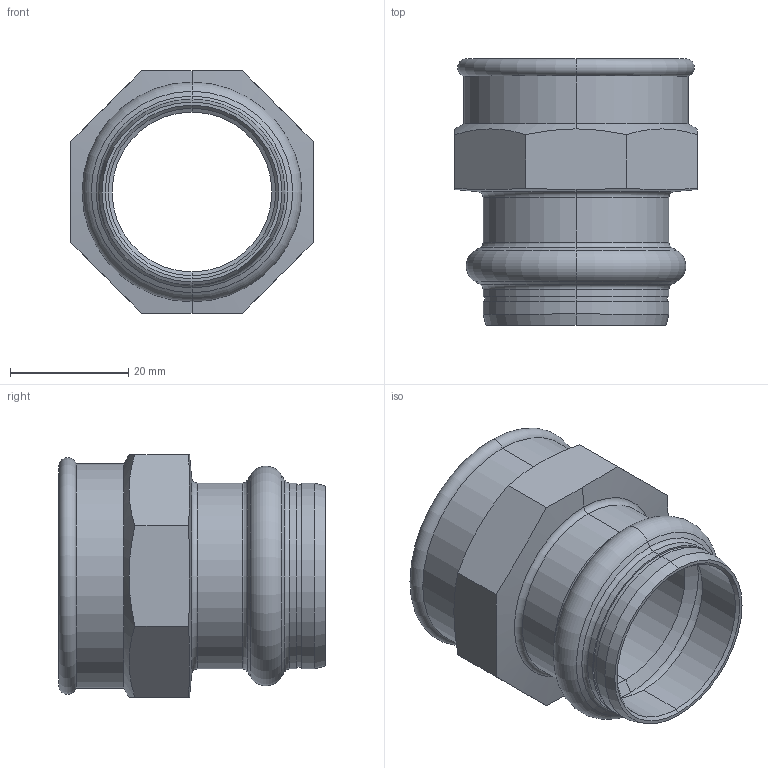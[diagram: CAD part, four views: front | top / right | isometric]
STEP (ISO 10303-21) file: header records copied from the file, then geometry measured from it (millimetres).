
FILE_DESCRIPTION (( 'STEP AP203' ), '1' );
FILE_NAME ('SP4270G Ø28 1.STEP', '2017-04-26T08:31:57', ( '' ), ( '' ), 'SwSTEP 2.0', 'SolidWorks 2016', '' );
FILE_SCHEMA (( 'CONFIG_CONTROL_DESIGN' ));
Length unit declared in the file: millimetre
Products named in the file (1): SP4270G ﾘ28 1
Bounding box: 41 x 45 x 41 mm (x, y, z)
Volume: 16255.3 mm3; surface area: 11321.3 mm2
Topology: 1 solids, 1 shells, 63 faces, 136 edges, 78 vertices
Faces by surface type: cone 20, cylinder 18, plane 13, torus 12
Entity records: 1865 total; most frequent: CARTESIAN_POINT 406, DIRECTION 314, ORIENTED_EDGE 272, EDGE_CURVE 136, AXIS2_PLACEMENT_3D 134, VERTEX_POINT 78, CIRCLE 70, EDGE_LOOP 68
